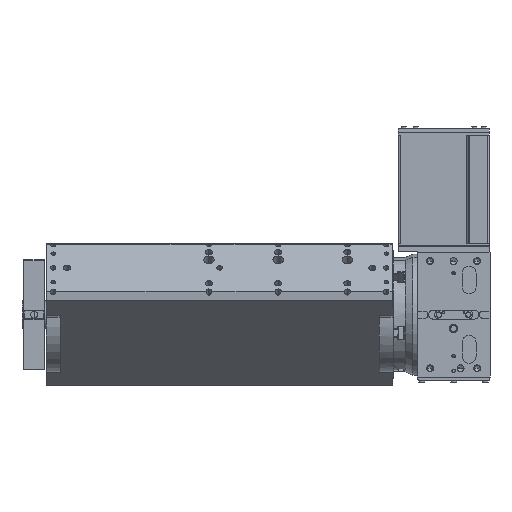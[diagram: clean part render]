
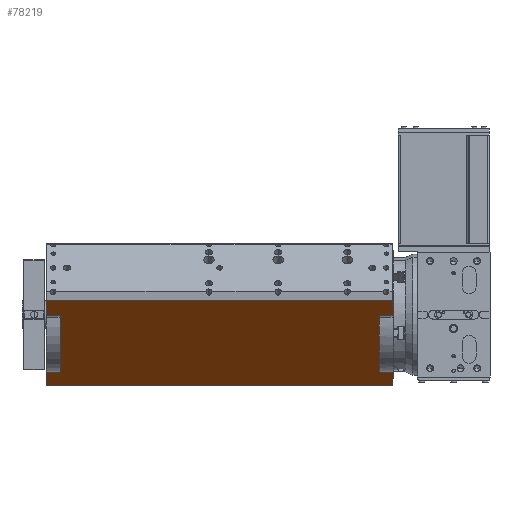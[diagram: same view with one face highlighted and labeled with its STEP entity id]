
A CAD part, front view. The second image highlights one B-rep face of the part: STEP entity #78219.
In plain terms, the highlighted planar face has unit normal (0, -0.66, -0.751) as drawn and (0, -0.5, -0.866) by its records, which use the part's own axes.
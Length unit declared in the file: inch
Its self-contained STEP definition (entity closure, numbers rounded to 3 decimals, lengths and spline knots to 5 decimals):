
#230 = VERTEX_POINT ( 'NONE', #121018 ) ;
#1557 = EDGE_LOOP ( 'NONE', ( #93418, #134338, #113703, #16943, #116401, #44691, #112161, #35945, #87692, #140511, #30053, #69511, #79636, #144299, #44533, #98000 ) ) ;
#3074 = VERTEX_POINT ( 'NONE', #3516 ) ;
#3104 = VECTOR ( 'NONE', #95980, 39.37008 ) ;
#3516 = CARTESIAN_POINT ( 'NONE',  ( -4.395, -5.49698, -0.07 ) ) ;
#4789 = EDGE_CURVE ( 'NONE', #3074, #32661, #15938, .T. ) ;
#5092 = CARTESIAN_POINT ( 'NONE',  ( -5.375, 1.30216, -3.99719 ) ) ;
#6630 = CARTESIAN_POINT ( 'NONE',  ( -4.395, -5.49698, -0.07 ) ) ;
#6772 = LINE ( 'NONE', #51418, #3104 ) ;
#11640 = EDGE_CURVE ( 'NONE', #32661, #230, #123625, .T. ) ;
#11858 = VERTEX_POINT ( 'NONE', #140259 ) ;
#11928 = VECTOR ( 'NONE', #37150, 39.37008 ) ;
#12222 = LINE ( 'NONE', #113100, #117611 ) ;
#13644 = CARTESIAN_POINT ( 'NONE',  ( -28.425, 1.30216, -3.99719 ) ) ;
#15575 = CARTESIAN_POINT ( 'NONE',  ( -5.375, 1.30216, -3.99719 ) ) ;
#15659 = CARTESIAN_POINT ( 'NONE',  ( -29.425, 1.86777, -4.32388 ) ) ;
#15938 = LINE ( 'NONE', #115429, #11928 ) ;
#16393 = PLANE ( 'NONE',  #43972 ) ;
#16943 = ORIENTED_EDGE ( 'NONE', *, *, #96243, .F. ) ;
#17048 = DIRECTION ( 'NONE',  ( 0., 0.866, -0.5 ) ) ;
#17275 = DIRECTION ( 'NONE',  ( 1., 0., 0. ) ) ;
#17495 = VERTEX_POINT ( 'NONE', #114831 ) ;
#17612 = VECTOR ( 'NONE', #58893, 39.37008 ) ;
#19878 = VERTEX_POINT ( 'NONE', #93843 ) ;
#20877 = LINE ( 'NONE', #64747, #127355 ) ;
#21072 = DIRECTION ( 'NONE',  ( 0., 0.866, -0.5 ) ) ;
#22918 = DIRECTION ( 'NONE',  ( 0., 0.866, -0.5 ) ) ;
#24322 = EDGE_CURVE ( 'NONE', #93272, #127480, #61086, .T. ) ;
#24999 = CARTESIAN_POINT ( 'NONE',  ( -29.425, 1.30216, -3.99719 ) ) ;
#25712 = LINE ( 'NONE', #24999, #128959 ) ;
#26737 = CARTESIAN_POINT ( 'NONE',  ( -29.425, -4.11307, -0.86935 ) ) ;
#30053 = ORIENTED_EDGE ( 'NONE', *, *, #103803, .F. ) ;
#32661 = VERTEX_POINT ( 'NONE', #94876 ) ;
#35881 = DIRECTION ( 'NONE',  ( 1., 0., 0. ) ) ;
#35945 = ORIENTED_EDGE ( 'NONE', *, *, #61211, .T. ) ;
#37150 = DIRECTION ( 'NONE',  ( 0., 0.866, -0.5 ) ) ;
#37999 = DIRECTION ( 'NONE',  ( 1., 0., 0. ) ) ;
#38641 = CARTESIAN_POINT ( 'NONE',  ( -5.375, 1.30216, -3.99719 ) ) ;
#41492 = EDGE_CURVE ( 'NONE', #11858, #102316, #116028, .T. ) ;
#41636 = EDGE_CURVE ( 'NONE', #89905, #56722, #20877, .T. ) ;
#42342 = CARTESIAN_POINT ( 'NONE',  ( -4.395, 1.86777, -4.32388 ) ) ;
#43972 = AXIS2_PLACEMENT_3D ( 'NONE', #15659, #136519, #61028 ) ;
#44533 = ORIENTED_EDGE ( 'NONE', *, *, #41492, .T. ) ;
#44691 = ORIENTED_EDGE ( 'NONE', *, *, #4789, .F. ) ;
#45137 = LINE ( 'NONE', #144056, #102352 ) ;
#45537 = CARTESIAN_POINT ( 'NONE',  ( -4.375, 1.86777, -4.32388 ) ) ;
#46518 = LINE ( 'NONE', #91073, #99371 ) ;
#46971 = CARTESIAN_POINT ( 'NONE',  ( -29.425, 1.30216, -3.99719 ) ) ;
#47158 = VECTOR ( 'NONE', #37999, 39.37008 ) ;
#49830 = LINE ( 'NONE', #6630, #50169 ) ;
#50169 = VECTOR ( 'NONE', #50545, 39.37008 ) ;
#50545 = DIRECTION ( 'NONE',  ( -1., 0., 0. ) ) ;
#51418 = CARTESIAN_POINT ( 'NONE',  ( -4.375, -4.11307, -0.86935 ) ) ;
#54745 = VECTOR ( 'NONE', #92040, 39.37008 ) ;
#56722 = VERTEX_POINT ( 'NONE', #92009 ) ;
#58893 = DIRECTION ( 'NONE',  ( 1., 0., 0. ) ) ;
#61028 = DIRECTION ( 'NONE',  ( 0., 0.866, -0.5 ) ) ;
#61086 = LINE ( 'NONE', #26737, #17612 ) ;
#61211 = EDGE_CURVE ( 'NONE', #17495, #93272, #45137, .T. ) ;
#64155 = EDGE_CURVE ( 'NONE', #127480, #118932, #46518, .T. ) ;
#64198 = CARTESIAN_POINT ( 'NONE',  ( -4.395, 2.49557, -4.6865 ) ) ;
#64747 = CARTESIAN_POINT ( 'NONE',  ( -4.395, 2.49557, -4.6865 ) ) ;
#66557 = DIRECTION ( 'NONE',  ( 1., 0., 0. ) ) ;
#68663 = CARTESIAN_POINT ( 'NONE',  ( -5.375, -4.86918, -0.43262 ) ) ;
#69511 = ORIENTED_EDGE ( 'NONE', *, *, #72617, .T. ) ;
#71907 = LINE ( 'NONE', #15575, #140454 ) ;
#72617 = EDGE_CURVE ( 'NONE', #119545, #56722, #12222, .T. ) ;
#72850 = CARTESIAN_POINT ( 'NONE',  ( -5.375, 1.86777, -4.32388 ) ) ;
#74071 = VERTEX_POINT ( 'NONE', #100844 ) ;
#76017 = LINE ( 'NONE', #42342, #86507 ) ;
#77345 = DIRECTION ( 'NONE',  ( 0., 0.866, -0.5 ) ) ;
#77574 = CARTESIAN_POINT ( 'NONE',  ( -5.375, -4.11307, -0.86935 ) ) ;
#78219 = ADVANCED_FACE ( 'NONE', ( #80129 ), #16393, .T. ) ;
#79636 = ORIENTED_EDGE ( 'NONE', *, *, #41636, .F. ) ;
#80129 = FACE_OUTER_BOUND ( 'NONE', #1557, .T. ) ;
#86336 = CARTESIAN_POINT ( 'NONE',  ( -4.375, 1.30216, -3.99719 ) ) ;
#86507 = VECTOR ( 'NONE', #120695, 39.37008 ) ;
#87692 = ORIENTED_EDGE ( 'NONE', *, *, #24322, .T. ) ;
#89905 = VERTEX_POINT ( 'NONE', #64198 ) ;
#91073 = CARTESIAN_POINT ( 'NONE',  ( -28.425, 1.30216, -3.99719 ) ) ;
#92009 = CARTESIAN_POINT ( 'NONE',  ( -29.425, 2.49557, -4.6865 ) ) ;
#92040 = DIRECTION ( 'NONE',  ( 1., 0., 0. ) ) ;
#93272 = VERTEX_POINT ( 'NONE', #113759 ) ;
#93418 = ORIENTED_EDGE ( 'NONE', *, *, #104232, .F. ) ;
#93843 = CARTESIAN_POINT ( 'NONE',  ( -5.375, -4.11307, -0.86935 ) ) ;
#94491 = VECTOR ( 'NONE', #66557, 39.37008 ) ;
#94831 = VERTEX_POINT ( 'NONE', #38641 ) ;
#94876 = CARTESIAN_POINT ( 'NONE',  ( -4.395, -4.86918, -0.43262 ) ) ;
#95980 = DIRECTION ( 'NONE',  ( 0., 0.866, -0.5 ) ) ;
#96243 = EDGE_CURVE ( 'NONE', #230, #74071, #6772, .T. ) ;
#98000 = ORIENTED_EDGE ( 'NONE', *, *, #110260, .F. ) ;
#99371 = VECTOR ( 'NONE', #102758, 39.37008 ) ;
#100844 = CARTESIAN_POINT ( 'NONE',  ( -4.375, -4.11307, -0.86935 ) ) ;
#102316 = VERTEX_POINT ( 'NONE', #140032 ) ;
#102352 = VECTOR ( 'NONE', #77345, 39.37008 ) ;
#102758 = DIRECTION ( 'NONE',  ( 0., 0.866, -0.5 ) ) ;
#103803 = EDGE_CURVE ( 'NONE', #119545, #118932, #25712, .T. ) ;
#104232 = EDGE_CURVE ( 'NONE', #94831, #134729, #128092, .T. ) ;
#106041 = VECTOR ( 'NONE', #17275, 39.37008 ) ;
#106255 = EDGE_CURVE ( 'NONE', #19878, #74071, #133278, .T. ) ;
#108370 = VECTOR ( 'NONE', #22918, 39.37008 ) ;
#109280 = DIRECTION ( 'NONE',  ( -1., 0., 0. ) ) ;
#110260 = EDGE_CURVE ( 'NONE', #134729, #102316, #135644, .T. ) ;
#112161 = ORIENTED_EDGE ( 'NONE', *, *, #138473, .T. ) ;
#112407 = CARTESIAN_POINT ( 'NONE',  ( -28.425, -4.11307, -0.86935 ) ) ;
#113100 = CARTESIAN_POINT ( 'NONE',  ( -29.425, 1.86777, -4.32388 ) ) ;
#113703 = ORIENTED_EDGE ( 'NONE', *, *, #106255, .T. ) ;
#113759 = CARTESIAN_POINT ( 'NONE',  ( -29.425, -4.11307, -0.86935 ) ) ;
#114469 = EDGE_CURVE ( 'NONE', #19878, #94831, #71907, .T. ) ;
#114831 = CARTESIAN_POINT ( 'NONE',  ( -29.425, -5.49698, -0.07 ) ) ;
#115429 = CARTESIAN_POINT ( 'NONE',  ( -4.395, -5.9083, 0.16758 ) ) ;
#115639 = EDGE_CURVE ( 'NONE', #11858, #89905, #76017, .T. ) ;
#116028 = LINE ( 'NONE', #72850, #106041 ) ;
#116401 = ORIENTED_EDGE ( 'NONE', *, *, #11640, .F. ) ;
#117611 = VECTOR ( 'NONE', #21072, 39.37008 ) ;
#118932 = VERTEX_POINT ( 'NONE', #13644 ) ;
#119545 = VERTEX_POINT ( 'NONE', #46971 ) ;
#120695 = DIRECTION ( 'NONE',  ( 0., 0.866, -0.5 ) ) ;
#121018 = CARTESIAN_POINT ( 'NONE',  ( -4.375, -4.86918, -0.43262 ) ) ;
#123625 = LINE ( 'NONE', #68663, #54745 ) ;
#127355 = VECTOR ( 'NONE', #109280, 39.37008 ) ;
#127480 = VERTEX_POINT ( 'NONE', #112407 ) ;
#128092 = LINE ( 'NONE', #5092, #47158 ) ;
#128959 = VECTOR ( 'NONE', #35881, 39.37008 ) ;
#133278 = LINE ( 'NONE', #77574, #94491 ) ;
#134338 = ORIENTED_EDGE ( 'NONE', *, *, #114469, .F. ) ;
#134729 = VERTEX_POINT ( 'NONE', #86336 ) ;
#135644 = LINE ( 'NONE', #45537, #108370 ) ;
#136519 = DIRECTION ( 'NONE',  ( 0., -0.5, -0.866 ) ) ;
#138473 = EDGE_CURVE ( 'NONE', #3074, #17495, #49830, .T. ) ;
#140032 = CARTESIAN_POINT ( 'NONE',  ( -4.375, 1.86777, -4.32388 ) ) ;
#140259 = CARTESIAN_POINT ( 'NONE',  ( -4.395, 1.86777, -4.32388 ) ) ;
#140454 = VECTOR ( 'NONE', #17048, 39.37008 ) ;
#140511 = ORIENTED_EDGE ( 'NONE', *, *, #64155, .T. ) ;
#144056 = CARTESIAN_POINT ( 'NONE',  ( -29.425, -5.9083, 0.16758 ) ) ;
#144299 = ORIENTED_EDGE ( 'NONE', *, *, #115639, .F. ) ;
